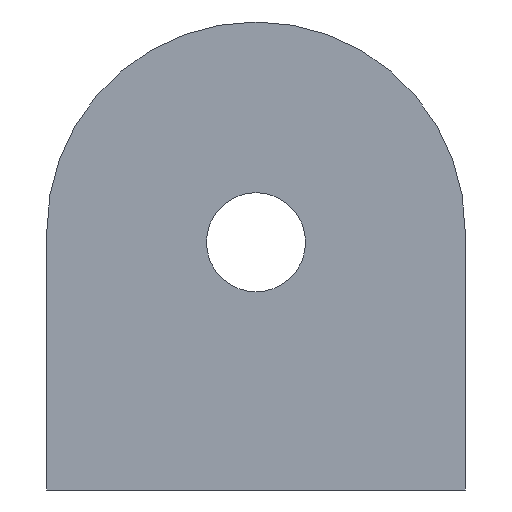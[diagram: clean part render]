
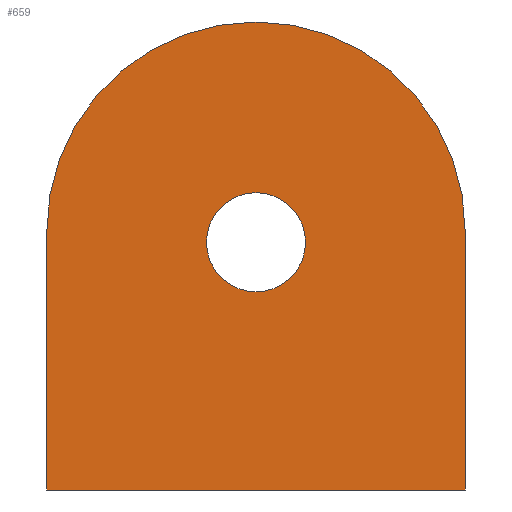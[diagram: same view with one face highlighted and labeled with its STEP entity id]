
A CAD part, front view. The second image highlights one B-rep face of the part: STEP entity #659.
In plain terms, the highlighted planar face has unit normal (0, -1, 0).
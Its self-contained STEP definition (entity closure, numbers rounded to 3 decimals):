
#23 = CARTESIAN_POINT ( 'NONE',  ( 22.713, -39.46, 23.5 ) ) ;
#24 = ORIENTED_EDGE ( 'NONE', *, *, #688, .T. ) ;
#41 = EDGE_CURVE ( 'NONE', #574, #700, #714, .T. ) ;
#48 = AXIS2_PLACEMENT_3D ( 'NONE', #291, #169, #595 ) ;
#66 = ORIENTED_EDGE ( 'NONE', *, *, #83, .T. ) ;
#75 = ORIENTED_EDGE ( 'NONE', *, *, #474, .F. ) ;
#77 = CARTESIAN_POINT ( 'NONE',  ( -15.287, -39.46, 0. ) ) ;
#83 = EDGE_CURVE ( 'NONE', #484, #486, #372, .T. ) ;
#85 = CIRCLE ( 'NONE', #305, 19. ) ;
#92 = AXIS2_PLACEMENT_3D ( 'NONE', #361, #793, #422 ) ;
#104 = DIRECTION ( 'NONE',  ( 0., 0., -1. ) ) ;
#124 = CARTESIAN_POINT ( 'NONE',  ( 22.713, -39.46, 8.5 ) ) ;
#127 = LINE ( 'NONE', #790, #596 ) ;
#149 = AXIS2_PLACEMENT_3D ( 'NONE', #697, #327, #764 ) ;
#156 = EDGE_LOOP ( 'NONE', ( #504, #202, #304, #66, #24 ) ) ;
#157 = DIRECTION ( 'NONE',  ( 0., -1., 0. ) ) ;
#166 = CARTESIAN_POINT ( 'NONE',  ( 3.713, -39.46, 18. ) ) ;
#169 = DIRECTION ( 'NONE',  ( 0., 1., 0. ) ) ;
#172 = EDGE_CURVE ( 'NONE', #658, #271, #316, .T. ) ;
#173 = CARTESIAN_POINT ( 'NONE',  ( 22.713, -39.46, 0. ) ) ;
#202 = ORIENTED_EDGE ( 'NONE', *, *, #781, .T. ) ;
#227 = DIRECTION ( 'NONE',  ( 0., 0., -1. ) ) ;
#260 = ORIENTED_EDGE ( 'NONE', *, *, #172, .F. ) ;
#271 = VERTEX_POINT ( 'NONE', #433 ) ;
#278 = CARTESIAN_POINT ( 'NONE',  ( 3.713, -39.46, 42.5 ) ) ;
#289 = DIRECTION ( 'NONE',  ( 0., -1., 0. ) ) ;
#291 = CARTESIAN_POINT ( 'NONE',  ( -15.287, -39.46, 8.5 ) ) ;
#304 = ORIENTED_EDGE ( 'NONE', *, *, #703, .T. ) ;
#305 = AXIS2_PLACEMENT_3D ( 'NONE', #654, #289, #720 ) ;
#316 = CIRCLE ( 'NONE', #634, 4.5 ) ;
#327 = DIRECTION ( 'NONE',  ( 0., -1., 0. ) ) ;
#361 = CARTESIAN_POINT ( 'NONE',  ( 3.713, -39.46, 23.5 ) ) ;
#372 = LINE ( 'NONE', #539, #513 ) ;
#405 = VECTOR ( 'NONE', #227, 1000. ) ;
#422 = DIRECTION ( 'NONE',  ( 0., 0., 1. ) ) ;
#433 = CARTESIAN_POINT ( 'NONE',  ( 3.713, -39.46, 27. ) ) ;
#439 = CIRCLE ( 'NONE', #92, 19. ) ;
#450 = CARTESIAN_POINT ( 'NONE',  ( -15.287, -39.46, 23.5 ) ) ;
#458 = FACE_BOUND ( 'NONE', #712, .T. ) ;
#474 = EDGE_CURVE ( 'NONE', #271, #658, #549, .T. ) ;
#484 = VERTEX_POINT ( 'NONE', #450 ) ;
#486 = VERTEX_POINT ( 'NONE', #77 ) ;
#504 = ORIENTED_EDGE ( 'NONE', *, *, #41, .F. ) ;
#513 = VECTOR ( 'NONE', #104, 1000. ) ;
#534 = PLANE ( 'NONE',  #48 ) ;
#536 = DIRECTION ( 'NONE',  ( 1., 0., 0. ) ) ;
#539 = CARTESIAN_POINT ( 'NONE',  ( -15.287, -39.46, 8.5 ) ) ;
#549 = CIRCLE ( 'NONE', #149, 4.5 ) ;
#552 = DIRECTION ( 'NONE',  ( 0., 0., -1. ) ) ;
#574 = VERTEX_POINT ( 'NONE', #23 ) ;
#586 = CARTESIAN_POINT ( 'NONE',  ( 3.713, -39.46, 22.5 ) ) ;
#595 = DIRECTION ( 'NONE',  ( 0., 0., 1. ) ) ;
#596 = VECTOR ( 'NONE', #536, 1000. ) ;
#602 = VERTEX_POINT ( 'NONE', #278 ) ;
#622 = FACE_OUTER_BOUND ( 'NONE', #156, .T. ) ;
#634 = AXIS2_PLACEMENT_3D ( 'NONE', #586, #157, #552 ) ;
#654 = CARTESIAN_POINT ( 'NONE',  ( 3.713, -39.46, 23.5 ) ) ;
#658 = VERTEX_POINT ( 'NONE', #166 ) ;
#659 = ADVANCED_FACE ( 'NONE', ( #458, #622 ), #534, .F. ) ;
#688 = EDGE_CURVE ( 'NONE', #486, #700, #127, .T. ) ;
#697 = CARTESIAN_POINT ( 'NONE',  ( 3.713, -39.46, 22.5 ) ) ;
#700 = VERTEX_POINT ( 'NONE', #173 ) ;
#703 = EDGE_CURVE ( 'NONE', #602, #484, #439, .T. ) ;
#712 = EDGE_LOOP ( 'NONE', ( #260, #75 ) ) ;
#714 = LINE ( 'NONE', #124, #405 ) ;
#720 = DIRECTION ( 'NONE',  ( 0., 0., 1. ) ) ;
#764 = DIRECTION ( 'NONE',  ( 0., 0., -1. ) ) ;
#781 = EDGE_CURVE ( 'NONE', #574, #602, #85, .T. ) ;
#790 = CARTESIAN_POINT ( 'NONE',  ( -15.287, -39.46, 0. ) ) ;
#793 = DIRECTION ( 'NONE',  ( 0., -1., 0. ) ) ;
